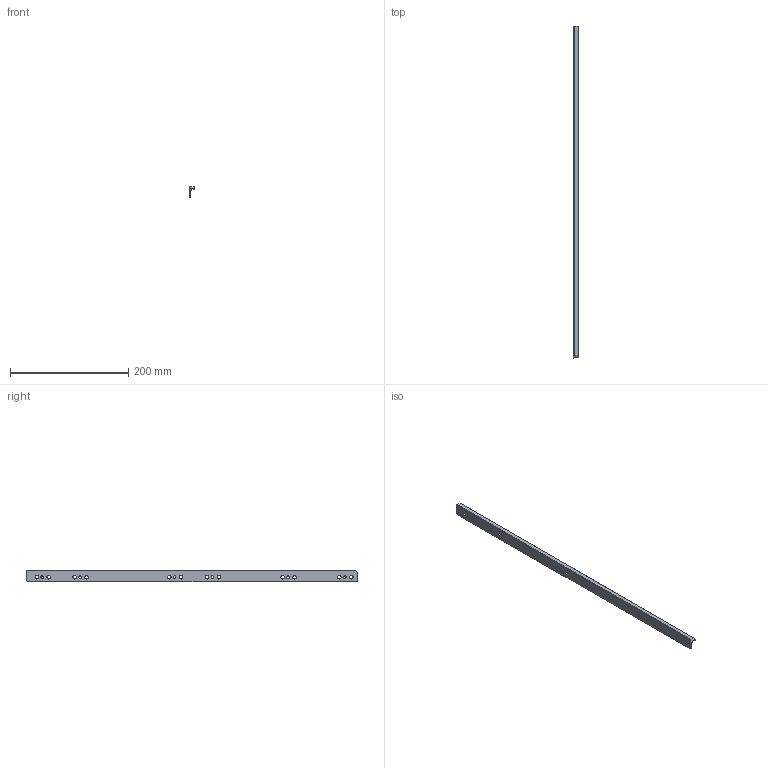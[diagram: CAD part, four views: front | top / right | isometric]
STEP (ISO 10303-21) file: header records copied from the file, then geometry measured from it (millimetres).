
FILE_DESCRIPTION (( 'STEP AP214' ), '1' );
FILE_NAME ('Zahnstange-links_NL550_K760018000.step', '2010-09-22T07:41:50', ( 'grass' ), ( '' ), 'SwSTEP 2.0', 'SolidWorks 2010', '' );
FILE_SCHEMA (( 'AUTOMOTIVE_DESIGN' ));
Length unit declared in the file: millimetre
Products named in the file (1): Zahnstange-links_NL550_K760018000
Bounding box: 9.5 x 562 x 20 mm (x, y, z)
Volume: 34579.1 mm3; surface area: 33836 mm2
Topology: 1 solids, 1 shells, 116 faces, 286 edges, 171 vertices
Faces by surface type: cylinder 64, cone 36, plane 16
Entity records: 3521 total; most frequent: DIRECTION 650, CARTESIAN_POINT 595, ORIENTED_EDGE 572, EDGE_CURVE 286, AXIS2_PLACEMENT_3D 254, VERTEX_POINT 171, EDGE_LOOP 151, LINE 142
